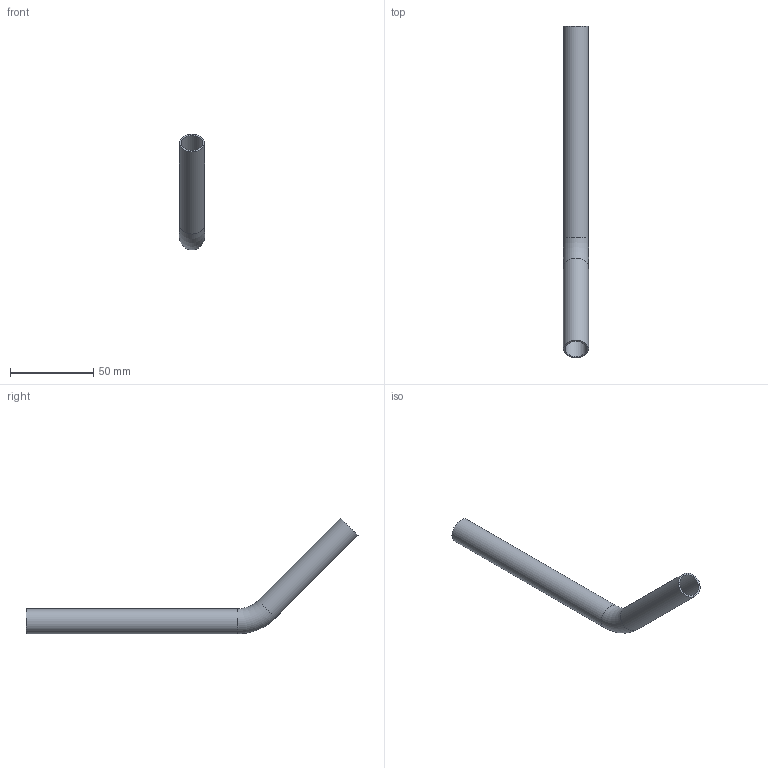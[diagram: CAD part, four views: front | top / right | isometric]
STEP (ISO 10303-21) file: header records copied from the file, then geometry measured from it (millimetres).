
FILE_DESCRIPTION(('STEP AP203'), '1');
FILE_NAME('ÂÐ.747111.005 - VTi.955.I.451515 Îòâîä 45 ãð. d15 (80õ137)', '', ('UNSPECIFIED'), ('UNSPECIFIED'), 'C3D Converter', 'C3D Toolkit', '');
FILE_SCHEMA(('CONFIG_CONTROL_DESIGN'));
Length unit declared in the file: millimetre
Products named in the file (1): ВР.747111.005
Bounding box: 15 x 198.87 x 69.37 mm (x, y, z)
Volume: 9496.8 mm3; surface area: 19081.7 mm2
Topology: 1 solids, 1 shells, 8 faces, 14 edges, 8 vertices
Faces by surface type: cylinder 4, torus 2, plane 2
Full cylindrical faces by diameter (mm): 13 x2, 15 x2
Entity records: 208 total; most frequent: DIRECTION 34, CARTESIAN_POINT 25, AXIS2_PLACEMENT_3D 17, EDGE_LOOP 16, ORIENTED_EDGE 16, FACE_OUTER_BOUND 12, ADVANCED_FACE 8, EDGE_CURVE 8
